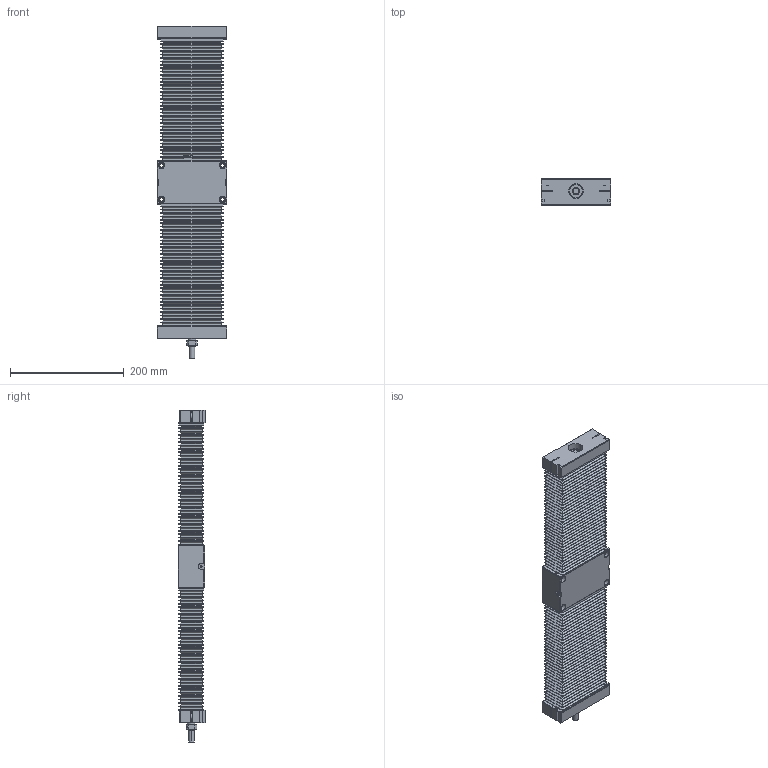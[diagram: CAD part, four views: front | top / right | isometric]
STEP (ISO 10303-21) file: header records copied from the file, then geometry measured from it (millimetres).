
FILE_DESCRIPTION (( 'STEP AP214' ), '1' );
FILE_NAME ('TKC1610B-250H0C-Ä£×é.step', '2025-08-25T08:37:49', ( '' ), ( '' ), 'SwSTEP 2.0', 'SolidWorks 2024', '' );
FILE_SCHEMA (( 'AUTOMOTIVE_DESIGN' ));
Length unit declared in the file: millimetre
Products named in the file (4): TKC16-250-01; TKC16-02; TKC1610B-250H0C-模组; TKC16-250-03
Assembly tree (4 placements, depth 2):
  TKC1610B-250H0C-模组
    TKC16-02
    TKC16-250-01
    TKC16-250-03  x2
Bounding box: 122 x 48 x 582.5 mm (x, y, z)
Volume: 1711847.7 mm3; surface area: 567318.4 mm2
Topology: 10 solids, 14 shells, 1588 faces, 3552 edges, 2031 vertices
Faces by surface type: plane 1160, cylinder 353, cone 36, torus 28, bspline 11
Entity records: 41611 total; most frequent: CARTESIAN_POINT 15970, ORIENTED_EDGE 5208, DIRECTION 5056, EDGE_CURVE 2604, VECTOR 1800, LINE 1800, AXIS2_PLACEMENT_3D 1628, VERTEX_POINT 1563
